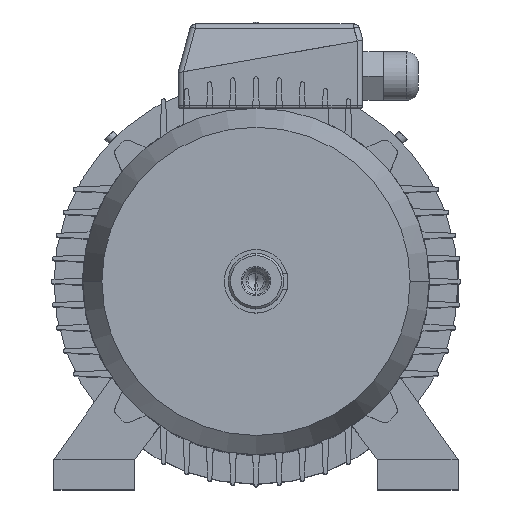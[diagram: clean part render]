
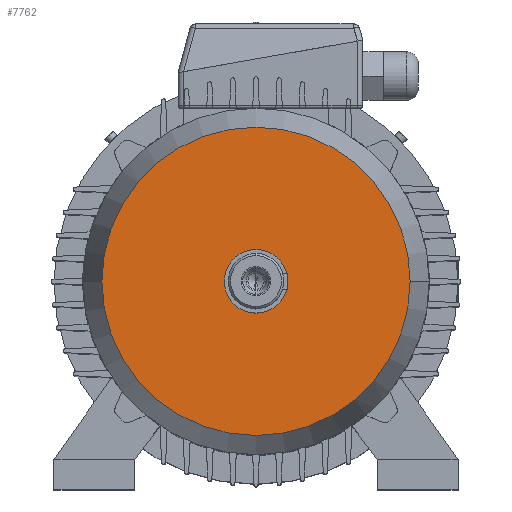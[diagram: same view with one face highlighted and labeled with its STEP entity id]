
A CAD part, top view. The second image highlights one B-rep face of the part: STEP entity #7762.
In plain terms, the highlighted planar face has unit normal (0, 0, 1).
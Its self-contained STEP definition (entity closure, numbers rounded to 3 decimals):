
#399 = ORIENTED_EDGE ( 'NONE', *, *, #19120, .F. ) ;
#17093 = CIRCLE ( 'NONE', #17094, 133.5 ) ;
#17094 = AXIS2_PLACEMENT_3D ( 'NONE', #17095, #17101, #17102 ) ;
#17095 = CARTESIAN_POINT ( 'NONE',  ( 0., 0., 61. ) ) ;
#17101 = DIRECTION ( 'NONE',  ( 0., 0., -1. ) ) ;
#17102 = DIRECTION ( 'NONE',  ( -1., 0., 0. ) ) ;
#1137 = CIRCLE ( 'NONE', #1138, 133.5 ) ;
#1138 = AXIS2_PLACEMENT_3D ( 'NONE', #1139, #1140, #1141 ) ;
#1139 = CARTESIAN_POINT ( 'NONE',  ( 0., 0., 61. ) ) ;
#1140 = DIRECTION ( 'NONE',  ( 0., 0., -1. ) ) ;
#1141 = DIRECTION ( 'NONE',  ( -1., 0., 0. ) ) ;
#1488 = EDGE_LOOP ( 'NONE', ( #3829, #399 ) ) ;
#19120 = EDGE_CURVE ( 'NONE', #3410, #3681, #1137, .T. ) ;
#3410 = VERTEX_POINT ( 'NONE', #7603 ) ;
#3681 = VERTEX_POINT ( 'NONE', #7802 ) ;
#3829 = ORIENTED_EDGE ( 'NONE', *, *, #15213, .F. ) ;
#7603 = CARTESIAN_POINT ( 'NONE',  ( 133.5, 0., 61. ) ) ;
#7762 = ADVANCED_FACE ( 'NONE', ( #11012 ), #11013, .T. ) ;
#7802 = CARTESIAN_POINT ( 'NONE',  ( -133.5, 0., 61. ) ) ;
#11012 = FACE_OUTER_BOUND ( 'NONE', #1488, .T. ) ;
#11013 = PLANE ( 'NONE',  #11014 ) ;
#11014 = AXIS2_PLACEMENT_3D ( 'NONE', #11015, #11016, #11017 ) ;
#11015 = CARTESIAN_POINT ( 'NONE',  ( 0., 133.5, 61. ) ) ;
#11016 = DIRECTION ( 'NONE',  ( 0., 0., 1. ) ) ;
#11017 = DIRECTION ( 'NONE',  ( 1., 0., 0. ) ) ;
#15213 = EDGE_CURVE ( 'NONE', #3681, #3410, #17093, .T. ) ;
